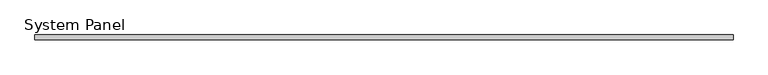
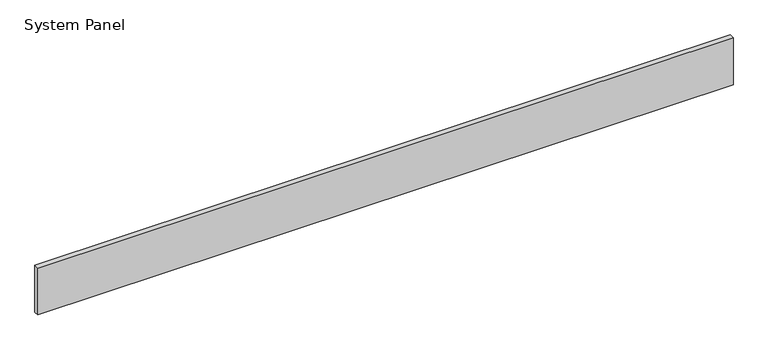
"""IFC4 building model written with IfcOpenShell, lengths in millimetres: plate geometry, System Panel : MetecnoSpan_100mm_Horizontal_Plain_Surfmist."""

from ifc_helpers import new_model, si_unit, origin, origin_with_axes, place, context, project, spatial, polyline, outline, extrude, source, transform, mapped, element, save


def system_panel_d82ac72a(model_context):
    return source(origin(), model_context, "Body", "SweptSolid", [
        extrude(outline(polyline([(7000.0, -100.0), (-7000.0, -100.0), (-7000.0, 0.0), (7000.0, 0.0), (7000.0, -100.0)])), origin_with_axes(), (0.0, 0.0, 1.0), 1000.0),
    ])


if __name__ == "__main__":
    model = new_model("IFC4")
    model_context = context("Model", 3, world=origin())
    ifc_project = project(units=[si_unit("LENGTHUNIT", "METRE", prefix="MILLI")], contexts=[model_context])
    site = spatial("IfcSite", under=ifc_project)
    building = spatial("IfcBuilding", under=site)
    placement = place(None, origin())
    system_panel_shape = system_panel_d82ac72a(model_context)
    element("IfcPlate", 1, ObjectType="System Panel : MetecnoSpan_100mm_Horizontal_Plain_Surfmist", at=placement, inside=building, context=model_context, shape_type="MappedRepresentation", body=[
        mapped(system_panel_shape, transform((0.0, 0.0, 0.0), x_axis=(1.0, 0.0, 0.0), y_axis=(0.0, 1.0, 0.0), z_axis=(0.0, 0.0, 1.0))),
    ])
    save(model, "model.ifc")
